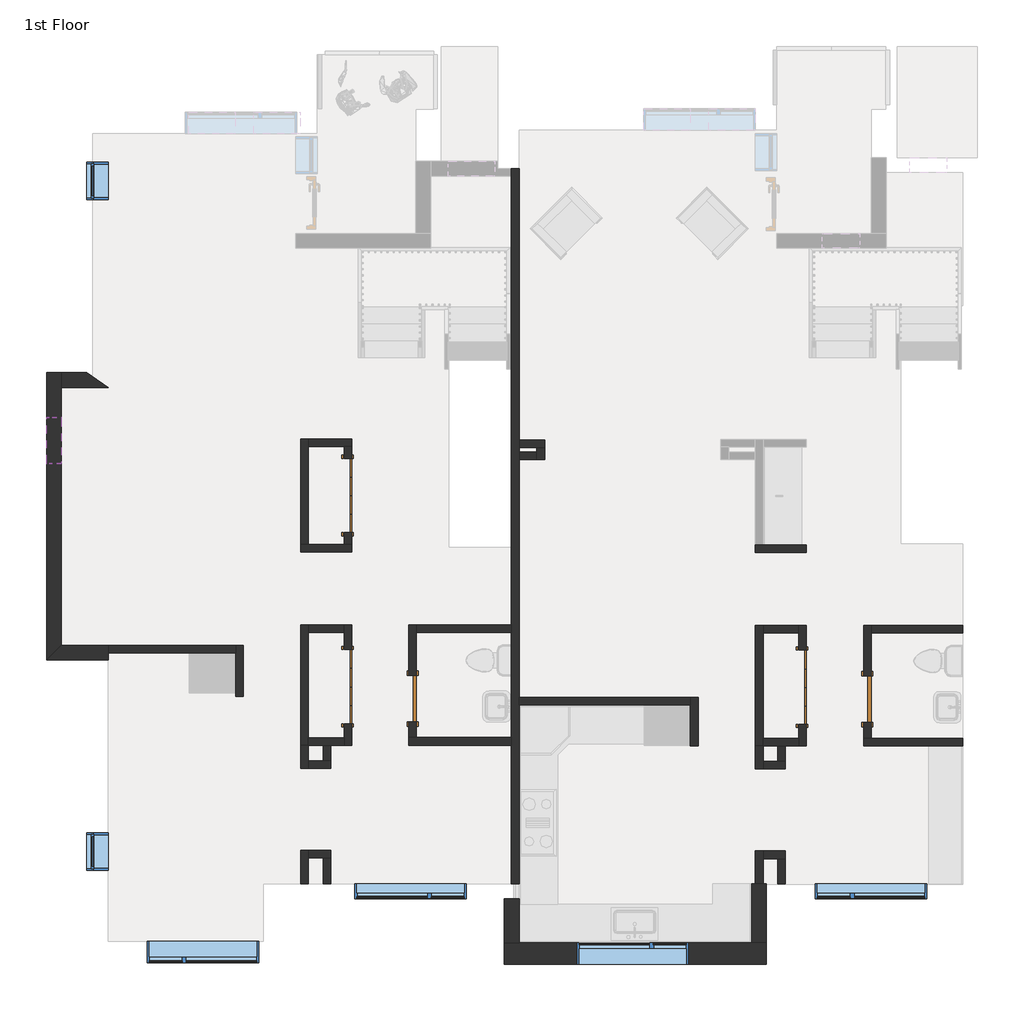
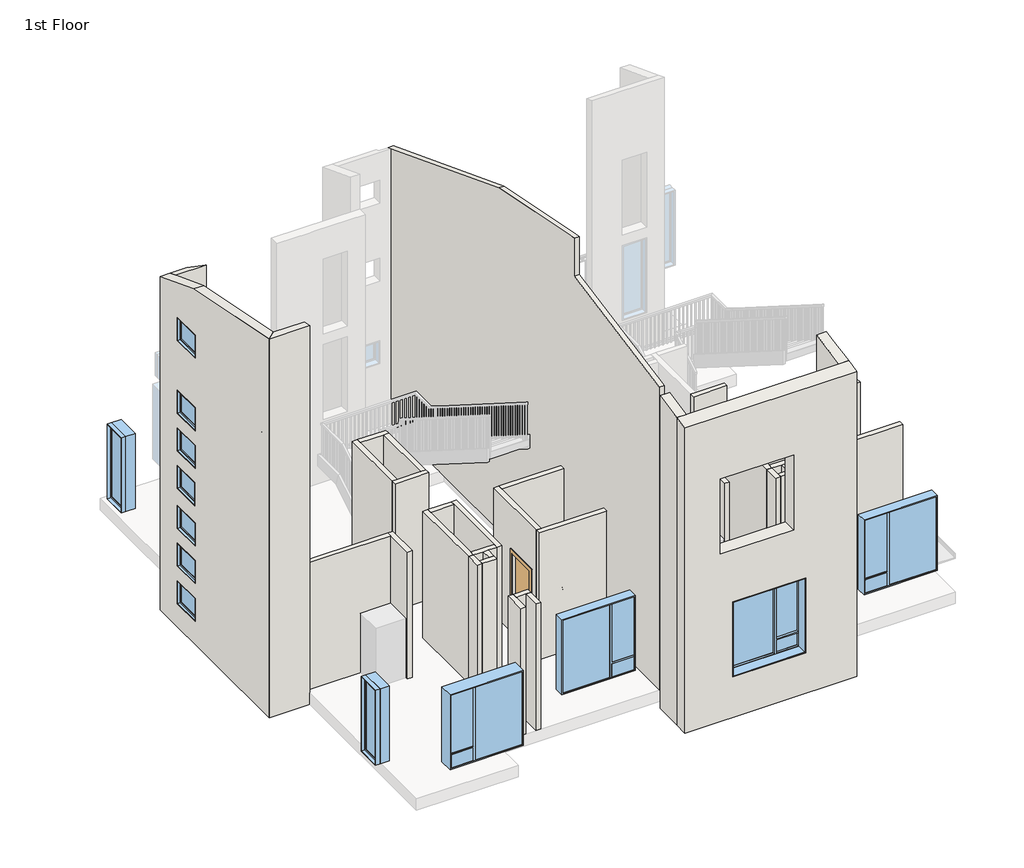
# One storey, part 1 of 6: 45 walls, 13 windows, 5 doors.
"""IFC4 building model written with IfcOpenShell, lengths in millimetres."""

from ifc_helpers import new_model, si_unit, frame, origin, origin_with_axes, place, context, project, spatial, polyline, outline, extrude, faceted_brep, transform, mapped, element, save
from components import bifold_4_panel_87549022, door_f8acb57e, window_8bf192ed, window_b1c1038b, window_8c170f25, window_e558d9e9, window_9a4b9100, window_dcb26459

model = new_model("IFC4")

# Units and contexts
model_context = context("Model", 3, world=origin())
ifc_project = project(units=[si_unit("LENGTHUNIT", "METRE", prefix="MILLI")], contexts=[model_context])

# Site, building, storey
site = spatial("IfcSite", under=ifc_project)
building = spatial("IfcBuilding", under=site)
storey = spatial("IfcBuildingStorey", under=building, Name="1st Floor", Elevation=0.0)

# Doors
placement = place(None, origin())
bifold_4_panel_shape = bifold_4_panel_87549022(model_context)
element("IfcDoor", 1, ObjectType="Bifold - 4 panel : 48\" x  84\"", at=placement, inside=storey, context=model_context, shape_type="MappedRepresentation", body=[
    mapped(bifold_4_panel_shape, transform((3072.3655789, -2688.2311915, 0.0), x_axis=(0.0, -1.0, 0.0), y_axis=(1.0, 0.0, 0.0), z_axis=(0.0, 0.0, 1.0))),
])
element("IfcDoor", 2, ObjectType="Bifold - 4 panel : 48\" x  84\"", at=placement, inside=storey, context=model_context, shape_type="MappedRepresentation", body=[
    mapped(bifold_4_panel_shape, transform((-4380.8788287, -2678.2311915, 0.0), x_axis=(0.0, -1.0, 0.0), y_axis=(1.0, 0.0, 0.0), z_axis=(0.0, 0.0, 1.0))),
])
element("IfcDoor", 3, ObjectType="Bifold - 4 panel : 48\" x  84\"", at=placement, inside=storey, context=model_context, shape_type="MappedRepresentation", body=[
    mapped(bifold_4_panel_shape, transform((-4380.8788287, 458.0881146, 0.0), x_axis=(0.0, -1.0, 0.0), y_axis=(1.0, 0.0, 0.0), z_axis=(0.0, 0.0, 1.0))),
])
door_shape = door_f8acb57e(model_context)
element("IfcDoor", 4, ObjectType="Single-Flush : 30\" x 84\"", at=placement, inside=storey, context=model_context, shape_type="MappedRepresentation", body=[
    mapped(door_shape, transform((4133.8655789, -2883.0811915, 0.0), x_axis=(0.0, -1.0, 0.0), y_axis=(1.0, 0.0, 0.0), z_axis=(0.0, 0.0, 1.0))),
])
element("IfcDoor", 5, ObjectType="Single-Flush : 30\" x 84\"", at=placement, inside=storey, context=model_context, shape_type="MappedRepresentation", body=[
    mapped(door_shape, transform((-3319.3788287, -2873.0811915, 0.0), x_axis=(0.0, -1.0, 0.0), y_axis=(1.0, 0.0, 0.0), z_axis=(0.0, 0.0, 1.0))),
])

# Walls
element("IfcWall", 6, ObjectType="Exterior - Brick", at=placement, inside=storey, context=model_context, shape_type="Brep", body=[
    faceted_brep([(-1817.4196781, -7230.7936915, -304.8), (2477.8178219, -7230.7936915, -304.8), (2477.8178219, -7230.7936915, 7755.5759818), (-1817.4196781, -7230.7936915, 7755.5759818), (898.1938664, -7230.7936915, 6096.0), (898.1938664, -7230.7936915, 4114.8), (-930.6061336, -7230.7936915, 4114.8), (-930.6061336, -7230.7936915, 6096.0), (1202.9938664, -7230.7936915, 2743.2), (1202.9938664, -7230.7936915, 762.0), (-625.8061336, -7230.7936915, 762.0), (-625.8061336, -7230.7936915, 2743.2), (-1817.4196781, -6878.3686915, -304.8), (-1817.4196781, -6878.3686915, 7822.6464081), (-1576.1196781, -6878.3686915, 7822.6464081), (2236.5178219, -6878.3686915, 7822.6464081), (2477.8178219, -6878.3686915, 7822.6464081), (2477.8178219, -6878.3686915, -304.8), (2236.5178219, -6878.3686915, -304.8), (-1576.1196781, -6878.3686915, -304.8), (898.1938664, -6878.3686915, 6096.0), (-930.6061336, -6878.3686915, 6096.0), (-930.6061336, -6878.3686915, 4114.8), (898.1938664, -6878.3686915, 4114.8), (1202.9938664, -6878.3686915, 2743.2), (-625.8061336, -6878.3686915, 2743.2), (-625.8061336, -6878.3686915, 762.0), (1202.9938664, -6878.3686915, 762.0)], [[[0, 1, 2, 3], [4, 5, 6, 7], [8, 9, 10, 11]], [[12, 13, 14, 15, 16, 17, 18, 19], [20, 21, 22, 23], [24, 25, 26, 27]], [[1, 0, 12, 19, 18, 17]], [[0, 3, 13, 12]], [[2, 1, 17, 16]], [[5, 4, 20, 23]], [[6, 5, 23, 22]], [[7, 6, 22, 21]], [[4, 7, 21, 20]], [[3, 2, 16, 15, 14, 13]], [[9, 8, 24, 27]], [[10, 9, 27, 26]], [[11, 10, 26, 25]], [[8, 11, 25, 24]]]),
])
element("IfcWall", 7, ObjectType="Exterior - Stucco", at=placement, inside=storey, context=model_context, shape_type="Brep", body=[
    faceted_brep([(-9080.4946781, 2472.0574206, -304.8), (-9080.4946781, 2472.0574206, 8511.7370135), (-9080.4946781, 2230.7574206, 8604.6307787), (-9080.4946781, 1023.3611207, 9069.4446552), (-9080.4946781, -1997.5436915, 9665.7212145), (-9080.4946781, -1997.5436915, -304.8), (-9080.4946781, 2230.7574206, -304.8), (-9080.4946781, 1734.6688085, 914.4), (-9080.4946781, 1734.6688085, 304.8), (-9080.4946781, 972.6688085, 304.8), (-9080.4946781, 972.6688085, 914.4), (-9080.4946781, 1734.6688085, 1908.175), (-9080.4946781, 1734.6688085, 1298.575), (-9080.4946781, 972.6688085, 1298.575), (-9080.4946781, 972.6688085, 1908.175), (-9080.4946781, 1734.6688085, 2901.95), (-9080.4946781, 1734.6688085, 2292.35), (-9080.4946781, 972.6688085, 2292.35), (-9080.4946781, 972.6688085, 2901.95), (-9080.4946781, 1741.8074206, 3962.4), (-9080.4946781, 1741.8074206, 3352.8), (-9080.4946781, 979.8074206, 3352.8), (-9080.4946781, 979.8074206, 3962.4), (-9080.4946781, 1734.6688085, 4956.175), (-9080.4946781, 1734.6688085, 4346.575), (-9080.4946781, 972.6688085, 4346.575), (-9080.4946781, 972.6688085, 4956.175), (-9080.4946781, 1734.6688085, 5949.95), (-9080.4946781, 1734.6688085, 5340.35), (-9080.4946781, 972.6688085, 5340.35), (-9080.4946781, 972.6688085, 5949.95), (-9080.4946781, 1734.6688085, 7870.825), (-9080.4946781, 1734.6688085, 7261.225), (-9080.4946781, 972.6688085, 7261.225), (-9080.4946781, 972.6688085, 7870.825), (-9321.7946781, 2472.0574206, -304.8), (-9321.7946781, -2238.8436915, -304.8), (-9321.7946781, -2238.8436915, 9713.3498366), (-9321.7946781, 1023.3611207, 9069.4446552), (-9321.7946781, 2472.0574206, 8511.7370135), (-9321.7946781, 1734.6688085, 914.4), (-9321.7946781, 972.6688085, 914.4), (-9321.7946781, 972.6688085, 304.8), (-9321.7946781, 1734.6688085, 304.8), (-9321.7946781, 1734.6688085, 1908.175), (-9321.7946781, 972.6688085, 1908.175), (-9321.7946781, 972.6688085, 1298.575), (-9321.7946781, 1734.6688085, 1298.575), (-9321.7946781, 1734.6688085, 2901.95), (-9321.7946781, 972.6688085, 2901.95), (-9321.7946781, 972.6688085, 2292.35), (-9321.7946781, 1734.6688085, 2292.35), (-9321.7946781, 1741.8074206, 3962.4), (-9321.7946781, 979.8074206, 3962.4), (-9321.7946781, 979.8074206, 3352.8), (-9321.7946781, 1741.8074206, 3352.8), (-9321.7946781, 1734.6688085, 4956.175), (-9321.7946781, 972.6688085, 4956.175), (-9321.7946781, 972.6688085, 4346.575), (-9321.7946781, 1734.6688085, 4346.575), (-9321.7946781, 1734.6688085, 5949.95), (-9321.7946781, 972.6688085, 5949.95), (-9321.7946781, 972.6688085, 5340.35), (-9321.7946781, 1734.6688085, 5340.35), (-9321.7946781, 1734.6688085, 7870.825), (-9321.7946781, 972.6688085, 7870.825), (-9321.7946781, 972.6688085, 7261.225), (-9321.7946781, 1734.6688085, 7261.225)], [[[0, 1, 2, 3, 4, 5, 6], [7, 8, 9, 10], [11, 12, 13, 14], [15, 16, 17, 18], [19, 20, 21, 22], [23, 24, 25, 26], [27, 28, 29, 30], [31, 32, 33, 34]], [[35, 36, 37, 38, 39], [40, 41, 42, 43], [44, 45, 46, 47], [48, 49, 50, 51], [52, 53, 54, 55], [56, 57, 58, 59], [60, 61, 62, 63], [64, 65, 66, 67]], [[36, 35, 0, 6, 5]], [[35, 39, 1, 0]], [[37, 36, 5, 4]], [[8, 7, 40, 43]], [[9, 8, 43, 42]], [[10, 9, 42, 41]], [[7, 10, 41, 40]], [[12, 11, 44, 47]], [[13, 12, 47, 46]], [[14, 13, 46, 45]], [[11, 14, 45, 44]], [[16, 15, 48, 51]], [[17, 16, 51, 50]], [[18, 17, 50, 49]], [[15, 18, 49, 48]], [[20, 19, 52, 55]], [[21, 20, 55, 54]], [[22, 21, 54, 53]], [[19, 22, 53, 52]], [[24, 23, 56, 59]], [[25, 24, 59, 58]], [[26, 25, 58, 57]], [[23, 26, 57, 56]], [[28, 27, 60, 63]], [[29, 28, 63, 62]], [[30, 29, 62, 61]], [[27, 30, 61, 60]], [[32, 31, 64, 67]], [[33, 32, 67, 66]], [[34, 33, 66, 65]], [[31, 34, 65, 64]], [[39, 38, 3, 2, 1]], [[38, 37, 4, 3]]]),
])
element("IfcWall", 8, ObjectType="Exterior - Stucco", at=placement, inside=storey, context=model_context, shape_type="Brep", body=[
    faceted_brep([(-9080.4946781, 2230.7574206, -304.8), (-8312.2446781, 2230.7574206, -304.8), (-8312.2446781, 2230.7574206, 8604.6307787), (-9080.4946781, 2230.7574206, 8604.6307787), (-9080.4946781, 2472.0574206, -304.8), (-9080.4946781, 2472.0574206, 8511.7370135), (-8664.6696781, 2472.0574206, 8511.7370135), (-8664.6696781, 2472.0574206, -304.8)], [[[0, 1, 2, 3]], [[4, 5, 6, 7]], [[1, 0, 4, 7]], [[2, 1, 7, 6]], [[0, 3, 5, 4]], [[3, 2, 6, 5]]]),
])
element("IfcWall", 9, ObjectType="Exterior - Stucco", at=placement, inside=storey, context=model_context, shape_type="Brep", body=[
    faceted_brep([(-9321.7946781, -2238.8436915, -304.8), (-8312.2446781, -2238.8436915, -304.8), (-8312.2446781, -2238.8436915, -28.575), (-8312.2446781, -2238.8436915, 6705.6), (-8312.2446781, -2238.8436915, 8711.0519224), (-8312.2446781, -2238.8436915, 9713.3498366), (-9321.7946781, -2238.8436915, 9713.3498366), (-9080.4946781, -1997.5436915, -304.8), (-9080.4946781, -1997.5436915, 9665.7212145), (-8312.2446781, -1997.5436915, 9665.7212145), (-8312.2446781, -1997.5436915, 6705.6), (-8312.2446781, -1997.5436915, -304.8)], [[[0, 1, 2, 3, 4, 5, 6]], [[7, 8, 9, 10, 11]], [[1, 0, 7, 11]], [[5, 4, 3, 2, 1, 11, 10, 9]], [[0, 6, 8, 7]], [[6, 5, 9, 8]]]),
])
element("IfcWall", 10, ObjectType="Exterior - Stucco", at=placement, inside=storey, context=model_context, shape_type="SweptSolid", body=[
    extrude(outline(polyline([(-6155.1546456, 7960.2821444), (-6155.1546456, -304.8), (-6878.3686915, -304.8), (-6878.3686915, 7822.6464081), (-6155.1546456, 7960.2821444)])), frame((-1817.4196781, 0.0, 0.0), z_axis=(1.0, 0.0, 0.0), x_axis=(0.0, 1.0, 0.0)), (0.0, 0.0, 1.0), 241.3),
])
element("IfcWall", 11, ObjectType="Exterior - Stucco", at=placement, inside=storey, context=model_context, shape_type="Brep", body=[
    faceted_brep([(2477.8178219, -6878.3686915, -304.8), (2477.8178219, -6155.1546456, -304.8), (2477.8178219, -5913.8546456, -304.8), (2477.8178219, -5913.8546456, 8006.2042381), (2477.8178219, -6155.1546456, 7960.2821444), (2477.8178219, -6878.3686915, 7822.6464081), (2236.5178219, -6878.3686915, -304.8), (2236.5178219, -6878.3686915, 7822.6464081), (2236.5178219, -5913.8546456, 8006.2042381), (2236.5178219, -5913.8546456, -304.8)], [[[0, 1, 2, 3, 4, 5]], [[6, 7, 8, 9]], [[2, 1, 0, 6, 9]], [[2, 9, 8, 3]], [[0, 5, 7, 6]], [[5, 4, 3, 8, 7]]]),
])
element("IfcWall", 12, ObjectType="Interior - 4 7/8\" Partition (1-hr)", at=placement, inside=storey, context=model_context, shape_type="Brep", body=[
    faceted_brep([(5698.2155789, -3522.8436915, 0.0), (4195.7780789, -3522.8436915, 0.0), (4071.9530789, -3522.8436915, 0.0), (4071.9530789, -3522.8436915, 3048.0), (4195.7780789, -3522.8436915, 3048.0), (5698.2155789, -3522.8436915, 3048.0), (5698.2155789, -3646.6686915, 0.0), (5698.2155789, -3646.6686915, 3048.0), (4071.9530789, -3646.6686915, 3048.0), (4071.9530789, -3646.6686915, 0.0)], [[[0, 1, 2, 3, 4, 5]], [[6, 7, 8, 9]], [[2, 1, 0, 6, 9]], [[3, 2, 9, 8]], [[0, 5, 7, 6]], [[5, 4, 3, 8, 7]]]),
])
element("IfcWall", 13, ObjectType="Interior - 4 7/8\" Partition (1-hr)", at=placement, inside=storey, context=model_context, shape_type="Brep", body=[
    faceted_brep([(4071.9530789, -3264.0811915, 2133.6), (4071.9530789, -3264.0811915, 0.0), (4071.9530789, -3522.8436915, 0.0), (4071.9530789, -3522.8436915, 3048.0), (4071.9530789, -1675.8186915, 3048.0), (4071.9530789, -1675.8186915, 0.0), (4071.9530789, -2502.0811915, 0.0), (4071.9530789, -2502.0811915, 2133.6), (4195.7780789, -3522.8436915, 0.0), (4195.7780789, -3264.0811915, 0.0), (4195.7780789, -3264.0811915, 2133.6), (4195.7780789, -2502.0811915, 2133.6), (4195.7780789, -2502.0811915, 0.0), (4195.7780789, -1799.6436915, 0.0), (4195.7780789, -1675.8186915, 0.0), (4195.7780789, -1675.8186915, 3048.0), (4195.7780789, -1799.6436915, 3048.0), (4195.7780789, -3522.8436915, 3048.0)], [[[0, 1, 2, 3, 4, 5, 6, 7]], [[8, 9, 10, 11, 12, 13, 14, 15, 16, 17]], [[2, 1, 9, 8]], [[6, 5, 14, 13, 12]], [[15, 14, 5, 4]], [[8, 17, 3, 2]], [[17, 16, 15, 4, 3]], [[10, 9, 1, 0]], [[11, 10, 0, 7]], [[12, 11, 7, 6]]]),
])
element("IfcWall", 14, ObjectType="Interior - 4 7/8\" Partition (1-hr)", at=placement, inside=storey, context=model_context, shape_type="SweptSolid", body=[
    extrude(outline(polyline([(5698.2155789, -1799.6436915), (4195.7780789, -1799.6436915), (4195.7780789, -1675.8186915), (5698.2155789, -1675.8186915), (5698.2155789, -1799.6436915)])), origin_with_axes(), (0.0, 0.0, 1.0), 3048.0),
])
element("IfcWall", 15, ObjectType="Interior - 4 7/8\" Partition (1-hr)", at=placement, inside=storey, context=model_context, shape_type="Brep", body=[
    faceted_brep([(3133.8655789, -352.8186915, 0.0), (2424.6053219, -352.8186915, 0.0), (2300.7803219, -352.8186915, 0.0), (2300.7803219, -352.8186915, 3048.0), (2424.6053219, -352.8186915, 3048.0), (3133.8655789, -352.8186915, 3048.0), (3133.8655789, -476.6436915, 0.0), (3133.8655789, -476.6436915, 3048.0), (2300.7803219, -476.6436915, 3048.0), (2300.7803219, -476.6436915, 0.0)], [[[0, 1, 2, 3, 4, 5]], [[6, 7, 8, 9]], [[2, 1, 0, 6, 9]], [[0, 5, 7, 6]], [[3, 2, 9, 8]], [[5, 4, 3, 8, 7]]]),
])
element("IfcWall", 16, ObjectType="Interior - 4 7/8\" Partition (1-hr)", at=placement, inside=storey, context=model_context, shape_type="SweptSolid", body=[
    extrude(outline(polyline([(1235.1530789, -2980.3686915), (-1576.1196781, -2980.3686915), (-1576.1196781, -2856.5436915), (1235.1530789, -2856.5436915), (1235.1530789, -2980.3686915)])), origin_with_axes(), (0.0, 0.0, 1.0), 3048.0),
])
element("IfcWall", 17, ObjectType="Interior - 4 7/8\" Partition (1-hr)", at=placement, inside=storey, context=model_context, shape_type="Brep", body=[
    faceted_brep([(3010.4530789, -3297.8311915, 2133.6), (3010.4530789, -3297.8311915, 0.0), (3010.4530789, -3529.0811915, 0.0), (3010.4530789, -3652.9061915, 0.0), (3010.4530789, -3652.9061915, 3048.0), (3010.4530789, -3529.0811915, 3048.0), (3010.4530789, -1799.6436915, 3048.0), (3010.4530789, -1675.8186915, 3048.0), (3010.4530789, -1675.8186915, 0.0), (3010.4530789, -1799.6436915, 0.0), (3010.4530789, -2078.6311915, 0.0), (3010.4530789, -2078.6311915, 2133.6), (3134.2780789, -3652.9061915, 0.0), (3134.2780789, -3297.8311915, 0.0), (3134.2780789, -3297.8311915, 2133.6), (3134.2780789, -2078.6311915, 2133.6), (3134.2780789, -2078.6311915, 0.0), (3134.2780789, -1675.8186915, 0.0), (3134.2780789, -1675.8186915, 3048.0), (3134.2780789, -3652.9061915, 3048.0)], [[[0, 1, 2, 3, 4, 5, 6, 7, 8, 9, 10, 11]], [[12, 13, 14, 15, 16, 17, 18, 19]], [[3, 2, 1, 13, 12]], [[10, 9, 8, 17, 16]], [[8, 7, 18, 17]], [[4, 3, 12, 19]], [[7, 6, 5, 4, 19, 18]], [[14, 13, 1, 0]], [[15, 14, 0, 11]], [[16, 15, 11, 10]]]),
])
element("IfcWall", 18, ObjectType="Interior - 4 7/8\" Partition (1-hr)", at=placement, inside=storey, context=model_context, shape_type="Brep", body=[
    faceted_brep([(2300.7803219, -1675.8186915, 0.0), (2300.7803219, -3652.9061915, 0.0), (2300.7803219, -3652.9061915, 3048.0), (2300.7803219, -1675.8186915, 3048.0), (2424.6053219, -1675.8186915, 0.0), (2424.6053219, -1675.8186915, 3048.0), (2424.6053219, -1799.6436915, 3048.0), (2424.6053219, -3529.0811915, 3048.0), (2424.6053219, -3652.9061915, 3048.0), (2424.6053219, -3652.9061915, 0.0), (2424.6053219, -3529.0811915, 0.0), (2424.6053219, -1799.6436915, 0.0)], [[[0, 1, 2, 3]], [[4, 5, 6, 7, 8, 9, 10, 11]], [[1, 0, 4, 11, 10, 9]], [[0, 3, 5, 4]], [[2, 1, 9, 8]], [[3, 2, 8, 7, 6, 5]]]),
])
element("IfcWall", 19, ObjectType="Interior - 4 7/8\" Partition (1-hr)", at=placement, inside=storey, context=model_context, shape_type="Brep", body=[
    faceted_brep([(1235.1530789, -2856.5436915, 0.0), (1235.1530789, -2980.3686915, 0.0), (1235.1530789, -3646.2561915, 0.0), (1235.1530789, -3646.2561915, 3048.0), (1235.1530789, -2980.3686915, 3048.0), (1235.1530789, -2856.5436915, 3048.0), (1358.9780789, -2856.5436915, 0.0), (1358.9780789, -2856.5436915, 3048.0), (1358.9780789, -3646.2561915, 3048.0), (1358.9780789, -3646.2561915, 0.0)], [[[0, 1, 2, 3, 4, 5]], [[6, 7, 8, 9]], [[2, 1, 0, 6, 9]], [[3, 2, 9, 8]], [[0, 5, 7, 6]], [[5, 4, 3, 8, 7]]]),
])
element("IfcWall", 20, ObjectType="Interior - 4 7/8\" Partition (1-hr)", at=placement, inside=storey, context=model_context, shape_type="SweptSolid", body=[
    extrude(outline(polyline([(3010.4530789, -1799.6436915), (2424.6053219, -1799.6436915), (2424.6053219, -1675.8186915), (3010.4530789, -1675.8186915), (3010.4530789, -1799.6436915)])), origin_with_axes(), (0.0, 0.0, 1.0), 3048.0),
])
element("IfcWall", 21, ObjectType="Interior - 4 7/8\" Partition (1-hr)", at=placement, inside=storey, context=model_context, shape_type="Brep", body=[
    faceted_brep([(2424.6053219, -3652.9061915, 0.0), (2667.0803219, -3652.9061915, 0.0), (2790.9053219, -3652.9061915, 0.0), (3010.4530789, -3652.9061915, 0.0), (3010.4530789, -3652.9061915, 3048.0), (2790.9053219, -3652.9061915, 3048.0), (2667.0803219, -3652.9061915, 3048.0), (2424.6053219, -3652.9061915, 3048.0), (2424.6053219, -3529.0811915, 0.0), (2424.6053219, -3529.0811915, 3048.0), (3010.4530789, -3529.0811915, 3048.0), (3010.4530789, -3529.0811915, 0.0)], [[[0, 1, 2, 3, 4, 5, 6, 7]], [[8, 9, 10, 11]], [[3, 2, 1, 0, 8, 11]], [[4, 3, 11, 10]], [[0, 7, 9, 8]], [[7, 6, 5, 4, 10, 9]]]),
])
element("IfcWall", 22, ObjectType="Interior - 4 7/8\" Partition (1-hr)", at=placement, inside=storey, context=model_context, shape_type="Brep", body=[
    faceted_brep([(-1576.1196781, 1245.7895201, 0.0), (-1282.0184081, 1245.7925466, 0.0), (-1158.1934081, 1245.7938208, 0.0), (-1158.1934081, 1245.7938208, 3048.0), (-1282.0184081, 1245.7925466, 3048.0), (-1576.1196781, 1245.7895201, 3048.0), (-1576.1196781, 1369.6145201, 0.0), (-1576.1196781, 1369.6145201, 3048.0), (-1158.1946824, 1369.6188208, 3048.0), (-1158.1946824, 1369.6188208, 0.0)], [[[0, 1, 2, 3, 4, 5]], [[6, 7, 8, 9]], [[2, 1, 0, 6, 9]], [[3, 2, 9, 8]], [[0, 5, 7, 6]], [[5, 4, 3, 8, 7]]]),
])
element("IfcWall", 23, ObjectType="Interior - 4 7/8\" Partition (1-hr)", at=placement, inside=storey, context=model_context, shape_type="Brep", body=[
    faceted_brep([(-1282.0184081, 1245.7925466, 0.0), (-1282.0176572, 1172.8199206, 0.0), (-1282.016383, 1048.9949206, 0.0), (-1282.016383, 1048.9949206, 3048.0), (-1282.0176572, 1172.8199206, 3048.0), (-1282.0184081, 1245.7925466, 3048.0), (-1158.1934081, 1245.7938208, 0.0), (-1158.1934081, 1245.7938208, 3048.0), (-1158.1913829, 1048.9949206, 3048.0), (-1158.1913829, 1048.9949206, 0.0)], [[[0, 1, 2, 3, 4, 5]], [[6, 7, 8, 9]], [[2, 1, 0, 6, 9]], [[3, 2, 9, 8]], [[0, 5, 7, 6]], [[5, 4, 3, 8, 7]]]),
])
element("IfcWall", 24, ObjectType="Interior - 4 7/8\" Partition (1-hr)", at=placement, inside=storey, context=model_context, shape_type="SweptSolid", body=[
    extrude(outline(polyline([(-1576.1196781, 1172.8199206), (-1282.0176572, 1172.8199206), (-1282.016383, 1048.9949206), (-1576.1196781, 1048.9949206), (-1576.1196781, 1172.8199206)])), origin_with_axes(), (0.0, 0.0, 1.0), 3048.0),
])
element("IfcWall", 25, ObjectType="Interior - 4 7/8\" Partition (1-hr)", at=placement, inside=storey, context=model_context, shape_type="Brep", body=[
    faceted_brep([(2300.7803219, -3652.9061915, 0.0), (2300.7803219, -4028.7311915, 0.0), (2300.7803219, -4028.7311915, 3048.0), (2300.7803219, -3652.9061915, 3048.0), (2424.6053219, -3652.9061915, 0.0), (2424.6053219, -3652.9061915, 3048.0), (2424.6053219, -3904.9061915, 3048.0), (2424.6053219, -4028.7311915, 3048.0), (2424.6053219, -4028.7311915, 0.0), (2424.6053219, -3904.9061915, 0.0)], [[[0, 1, 2, 3]], [[4, 5, 6, 7, 8, 9]], [[1, 0, 4, 9, 8]], [[2, 1, 8, 7]], [[0, 3, 5, 4]], [[3, 2, 7, 6, 5]]]),
])
element("IfcWall", 26, ObjectType="Interior - 4 7/8\" Partition (1-hr)", at=placement, inside=storey, context=model_context, shape_type="Brep", body=[
    faceted_brep([(2424.6053219, -4028.7311915, 0.0), (2790.9053219, -4028.7311915, 0.0), (2790.9053219, -4028.7311915, 3048.0), (2424.6053219, -4028.7311915, 3048.0), (2424.6053219, -3904.9061915, 0.0), (2424.6053219, -3904.9061915, 3048.0), (2667.0803219, -3904.9061915, 3048.0), (2790.9053219, -3904.9061915, 3048.0), (2790.9053219, -3904.9061915, 0.0), (2667.0803219, -3904.9061915, 0.0)], [[[0, 1, 2, 3]], [[4, 5, 6, 7, 8, 9]], [[1, 0, 4, 9, 8]], [[2, 1, 8, 7]], [[0, 3, 5, 4]], [[3, 2, 7, 6, 5]]]),
])
element("IfcWall", 27, ObjectType="Interior - 4 7/8\" Partition (1-hr)", at=placement, inside=storey, context=model_context, shape_type="SweptSolid", body=[
    extrude(outline(polyline([(2790.9053219, -3652.9061915), (2790.9053219, -3904.9061915), (2667.0803219, -3904.9061915), (2667.0803219, -3652.9061915), (2790.9053219, -3652.9061915)])), origin_with_axes(), (0.0, 0.0, 1.0), 3048.0),
])
element("IfcWall", 28, ObjectType="Interior - 4 7/8\" Partition (1-hr)", at=placement, inside=storey, context=model_context, shape_type="Brep", body=[
    faceted_brep([(2424.4786115, -5913.8546456, 0.0), (2424.4786115, -5497.9561915, 0.0), (2424.4786115, -5374.1311915, 0.0), (2424.4786115, -5374.1311915, 3048.0), (2424.4786115, -5497.9561915, 3048.0), (2424.4786115, -5913.8546456, 3048.0), (2300.6536115, -5913.8546456, 0.0), (2300.6536115, -5913.8546456, 3048.0), (2300.6536115, -5374.1311915, 3048.0), (2300.6536115, -5374.1311915, 0.0)], [[[0, 1, 2, 3, 4, 5]], [[6, 7, 8, 9]], [[2, 1, 0, 6, 9]], [[3, 2, 9, 8]], [[0, 5, 7, 6]], [[5, 4, 3, 8, 7]]]),
])
element("IfcWall", 29, ObjectType="Interior - 4 7/8\" Partition (1-hr)", at=placement, inside=storey, context=model_context, shape_type="Brep", body=[
    faceted_brep([(2424.4786115, -5497.9561915, 0.0), (2667.0803219, -5497.9561915, 0.0), (2790.9053219, -5497.9561915, 0.0), (2790.9053219, -5497.9561915, 3048.0), (2667.0803219, -5497.9561915, 3048.0), (2424.4786115, -5497.9561915, 3048.0), (2424.4786115, -5374.1311915, 0.0), (2424.4786115, -5374.1311915, 3048.0), (2790.9053219, -5374.1311915, 3048.0), (2790.9053219, -5374.1311915, 0.0)], [[[0, 1, 2, 3, 4, 5]], [[6, 7, 8, 9]], [[2, 1, 0, 6, 9]], [[3, 2, 9, 8]], [[0, 5, 7, 6]], [[5, 4, 3, 8, 7]]]),
])
element("IfcWall", 30, ObjectType="Interior - 4 7/8\" Partition (1-hr)", at=placement, inside=storey, context=model_context, shape_type="SweptSolid", body=[
    extrude(outline(polyline([(2667.0803219, -5913.8546456), (2667.0803219, -5497.9561915), (2790.9053219, -5497.9561915), (2790.9053219, -5913.8546456), (2667.0803219, -5913.8546456)])), origin_with_axes(), (0.0, 0.0, 1.0), 3048.0),
])
element("IfcWall", 31, ObjectType="Interior - 4 7/8\" Partition (1-hr)", at=placement, inside=storey, context=model_context, shape_type="Brep", body=[
    faceted_brep([(-1699.9446781, -3512.8436915, 0.0), (-3257.4663287, -3512.8436915, 0.0), (-3381.2913287, -3512.8436915, 0.0), (-3381.2913287, -3512.8436915, 3352.8), (-3257.4663287, -3512.8436915, 3352.8), (-1699.9446781, -3512.8436915, 3352.8), (-1699.9446781, -3636.6686915, 0.0), (-1699.9446781, -3636.6686915, 3352.8), (-3381.2913287, -3636.6686915, 3352.8), (-3381.2913287, -3636.6686915, 0.0)], [[[0, 1, 2, 3, 4, 5]], [[6, 7, 8, 9]], [[2, 1, 0, 6, 9]], [[5, 4, 3, 8, 7]], [[3, 2, 9, 8]], [[0, 5, 7, 6]]]),
])
element("IfcWall", 32, ObjectType="Interior - 4 7/8\" Partition (1-hr)", at=placement, inside=storey, context=model_context, shape_type="Brep", body=[
    faceted_brep([(-3257.4663287, -3512.8436915, 3352.8), (-3257.4663287, -1789.6436915, 3352.8), (-3257.4663287, -1665.8186915, 3352.8), (-3381.2913287, -1665.8186915, 3352.8), (-3381.2913287, -3512.8436915, 3352.8), (-3381.2913287, -3254.0811915, 2133.6), (-3381.2913287, -3254.0811915, 0.0), (-3381.2913287, -3512.8436915, 0.0), (-3381.2913287, -1665.8186915, 0.0), (-3381.2913287, -2492.0811915, 0.0), (-3381.2913287, -2492.0811915, 2133.6), (-3257.4663287, -3512.8436915, 0.0), (-3257.4663287, -3254.0811915, 0.0), (-3257.4663287, -3254.0811915, 2133.6), (-3257.4663287, -2492.0811915, 2133.6), (-3257.4663287, -2492.0811915, 0.0), (-3257.4663287, -1789.6436915, 0.0), (-3257.4663287, -1665.8186915, 0.0)], [[[0, 1, 2, 3, 4]], [[5, 6, 7, 4, 3, 8, 9, 10]], [[11, 12, 13, 14, 15, 16, 17, 2, 1, 0]], [[7, 6, 12, 11]], [[9, 8, 17, 16, 15]], [[2, 17, 8, 3]], [[11, 0, 4, 7]], [[13, 12, 6, 5]], [[14, 13, 5, 10]], [[15, 14, 10, 9]]]),
])
element("IfcWall", 33, ObjectType="Interior - 4 7/8\" Partition (1-hr)", at=placement, inside=storey, context=model_context, shape_type="SweptSolid", body=[
    extrude(outline(polyline([(-1699.9446781, -1789.6436915), (-3257.4663287, -1789.6436915), (-3257.4663287, -1665.8186915), (-1699.9446781, -1665.8186915), (-1699.9446781, -1789.6436915)])), origin_with_axes(), (0.0, 0.0, 1.0), 3352.8),
])
element("IfcWall", 34, ObjectType="Interior - 4 7/8\" Partition (1-hr)", at=placement, inside=storey, context=model_context, shape_type="Brep", body=[
    faceted_brep([(-4318.9663287, -342.8186915, 0.0), (-4442.7913287, -342.8186915, 0.0), (-5028.6390857, -342.8186915, 0.0), (-5152.4640857, -342.8186915, 0.0), (-5152.4640857, -342.8186915, 3352.8), (-5028.6390857, -342.8186915, 3352.8), (-4442.7913287, -342.8186915, 3352.8), (-4318.9663287, -342.8186915, 3352.8), (-4318.9663287, -466.6436915, 0.0), (-4318.9663287, -466.6436915, 3352.8), (-5152.4640857, -466.6436915, 3352.8), (-5152.4640857, -466.6436915, 0.0)], [[[0, 1, 2, 3, 4, 5, 6, 7]], [[8, 9, 10, 11]], [[3, 2, 1, 0, 8, 11]], [[7, 6, 5, 4, 10, 9]], [[4, 3, 11, 10]], [[0, 7, 9, 8]]]),
])
element("IfcWall", 35, ObjectType="Interior - 4 7/8\" Partition (1-hr)", at=placement, inside=storey, context=model_context, shape_type="Brep", body=[
    faceted_brep([(-5028.6390857, -342.8186915, 0.0), (-5028.6390857, 1258.9949206, 0.0), (-5028.6390857, 1382.8199206, 0.0), (-5028.6390857, 1382.8199206, 3352.8), (-5028.6390857, 1258.9949206, 3352.8), (-5028.6390857, -342.8186915, 3352.8), (-5152.4640857, -342.8186915, 0.0), (-5152.4640857, -342.8186915, 3352.8), (-5152.4640857, 1382.8199206, 3352.8), (-5152.4640857, 1382.8199206, 0.0)], [[[0, 1, 2, 3, 4, 5]], [[6, 7, 8, 9]], [[2, 1, 0, 6, 9]], [[5, 4, 3, 8, 7]], [[3, 2, 9, 8]], [[0, 5, 7, 6]]]),
])
element("IfcWall", 36, ObjectType="Interior - 4 7/8\" Partition (1-hr)", at=placement, inside=storey, context=model_context, shape_type="Brep", body=[
    faceted_brep([(-5028.6390857, 1258.9949206, 0.0), (-4442.7913287, 1258.9949206, 0.0), (-4318.9663287, 1258.9949206, 0.0), (-4318.9663287, 1258.9949206, 3352.8), (-4442.7913287, 1258.9949206, 3352.8), (-5028.6390857, 1258.9949206, 3352.8), (-5028.6390857, 1382.8199206, 0.0), (-5028.6390857, 1382.8199206, 3352.8), (-4318.9663287, 1382.8199206, 3352.8), (-4318.9663287, 1382.8199206, 0.0)], [[[0, 1, 2, 3, 4, 5]], [[6, 7, 8, 9]], [[2, 1, 0, 6, 9]], [[5, 4, 3, 8, 7]], [[3, 2, 9, 8]], [[0, 5, 7, 6]]]),
])
element("IfcWall", 37, ObjectType="Interior - 4 7/8\" Partition (1-hr)", at=placement, inside=storey, context=model_context, shape_type="Brep", body=[
    faceted_brep([(-8312.2446781, -2121.3686915, 3352.8), (-7905.7446781, -2121.3686915, 3352.8), (-7143.7446781, -2121.3686915, 3352.8), (-6218.0913287, -2121.3686915, 3352.8), (-6218.0913287, -1997.5436915, 3352.8), (-7143.7446781, -1997.5436915, 3352.8), (-7905.7446781, -1997.5436915, 3352.8), (-8312.2446781, -1997.5436915, 3352.8), (-8312.2446781, -1997.5436915, 0.0), (-6218.0913287, -1997.5436915, 0.0), (-8312.2446781, -2121.3686915, 0.0), (-6218.0913287, -2121.3686915, 0.0)], [[[0, 1, 2, 3, 4, 5, 6, 7]], [[8, 7, 6, 5, 4, 9]], [[10, 11, 3, 2, 1, 0]], [[11, 10, 8, 9]], [[3, 11, 9, 4]], [[10, 0, 7, 8]]]),
])
element("IfcWall", 38, ObjectType="Interior - 4 7/8\" Partition (1-hr)", at=placement, inside=storey, context=model_context, shape_type="Brep", body=[
    faceted_brep([(-4442.7913287, -3287.8311915, 2133.6), (-4442.7913287, -3287.8311915, 0.0), (-4442.7913287, -3519.0811915, 0.0), (-4442.7913287, -3642.9061915, 0.0), (-4442.7913287, -3642.9061915, 3352.8), (-4442.7913287, -3519.0811915, 3352.8), (-4442.7913287, -1789.6436915, 3352.8), (-4442.7913287, -1665.8186915, 3352.8), (-4442.7913287, -1665.8186915, 0.0), (-4442.7913287, -1789.6436915, 0.0), (-4442.7913287, -2068.6311915, 0.0), (-4442.7913287, -2068.6311915, 2133.6), (-4318.9663287, -3642.9061915, 0.0), (-4318.9663287, -3287.8311915, 0.0), (-4318.9663287, -3287.8311915, 2133.6), (-4318.9663287, -2068.6311915, 2133.6), (-4318.9663287, -2068.6311915, 0.0), (-4318.9663287, -1665.8186915, 0.0), (-4318.9663287, -1665.8186915, 3352.8), (-4318.9663287, -3642.9061915, 3352.8)], [[[0, 1, 2, 3, 4, 5, 6, 7, 8, 9, 10, 11]], [[12, 13, 14, 15, 16, 17, 18, 19]], [[3, 2, 1, 13, 12]], [[10, 9, 8, 17, 16]], [[7, 6, 5, 4, 19, 18]], [[8, 7, 18, 17]], [[4, 3, 12, 19]], [[14, 13, 1, 0]], [[15, 14, 0, 11]], [[16, 15, 11, 10]]]),
])
element("IfcWall", 39, ObjectType="Interior - 4 7/8\" Partition (1-hr)", at=placement, inside=storey, context=model_context, shape_type="Brep", body=[
    faceted_brep([(-5152.4640857, -1665.8186915, 0.0), (-5152.4640857, -3642.9061915, 0.0), (-5152.4640857, -3642.9061915, 3352.8), (-5152.4640857, -1665.8186915, 3352.8), (-5028.6390857, -1665.8186915, 0.0), (-5028.6390857, -1665.8186915, 3352.8), (-5028.6390857, -1789.6436915, 3352.8), (-5028.6390857, -3519.0811915, 3352.8), (-5028.6390857, -3642.9061915, 3352.8), (-5028.6390857, -3642.9061915, 0.0), (-5028.6390857, -3519.0811915, 0.0), (-5028.6390857, -1789.6436915, 0.0)], [[[0, 1, 2, 3]], [[4, 5, 6, 7, 8, 9, 10, 11]], [[1, 0, 4, 11, 10, 9]], [[3, 2, 8, 7, 6, 5]], [[0, 3, 5, 4]], [[2, 1, 9, 8]]]),
])
element("IfcWall", 40, ObjectType="Interior - 4 7/8\" Partition (1-hr)", at=placement, inside=storey, context=model_context, shape_type="Brep", body=[
    faceted_brep([(-6218.0913287, -1997.5436915, 0.0), (-6218.0913287, -2121.3686915, 0.0), (-6218.0913287, -2836.9186915, 0.0), (-6218.0913287, -2836.9186915, 3352.8), (-6218.0913287, -2121.3686915, 3352.8), (-6218.0913287, -1997.5436915, 3352.8), (-6094.2663287, -1997.5436915, 0.0), (-6094.2663287, -1997.5436915, 3352.8), (-6094.2663287, -2836.9186915, 3352.8), (-6094.2663287, -2836.9186915, 0.0)], [[[0, 1, 2, 3, 4, 5]], [[6, 7, 8, 9]], [[2, 1, 0, 6, 9]], [[3, 2, 9, 8]], [[5, 4, 3, 8, 7]], [[0, 5, 7, 6]]]),
])
element("IfcWall", 41, ObjectType="Interior - 4 7/8\" Partition (1-hr)", at=placement, inside=storey, context=model_context, shape_type="SweptSolid", body=[
    extrude(outline(polyline([(-4442.7913287, -1789.6436915), (-5028.6390857, -1789.6436915), (-5028.6390857, -1665.8186915), (-4442.7913287, -1665.8186915), (-4442.7913287, -1789.6436915)])), origin_with_axes(), (0.0, 0.0, 1.0), 3352.8),
])
element("IfcWall", 42, ObjectType="Interior - 4 7/8\" Partition (1-hr)", at=placement, inside=storey, context=model_context, shape_type="Brep", body=[
    faceted_brep([(-5028.6390857, -3642.9061915, 0.0), (-4786.1640857, -3642.9061915, 0.0), (-4662.3390857, -3642.9061915, 0.0), (-4442.7913287, -3642.9061915, 0.0), (-4442.7913287, -3642.9061915, 3352.8), (-4662.3390857, -3642.9061915, 3352.8), (-4786.1640857, -3642.9061915, 3352.8), (-5028.6390857, -3642.9061915, 3352.8), (-5028.6390857, -3519.0811915, 0.0), (-5028.6390857, -3519.0811915, 3352.8), (-4442.7913287, -3519.0811915, 3352.8), (-4442.7913287, -3519.0811915, 0.0)], [[[0, 1, 2, 3, 4, 5, 6, 7]], [[8, 9, 10, 11]], [[3, 2, 1, 0, 8, 11]], [[7, 6, 5, 4, 10, 9]], [[4, 3, 11, 10]], [[0, 7, 9, 8]]]),
])
element("IfcWall", 43, ObjectType="Interior - 4 7/8\" Partition (1-hr)", at=placement, inside=storey, context=model_context, shape_type="Brep", body=[
    faceted_brep([(-5152.4640857, -3642.9061915, 0.0), (-5152.4640857, -4018.7311915, 0.0), (-5152.4640857, -4018.7311915, 3352.8), (-5152.4640857, -3642.9061915, 3352.8), (-5028.6390857, -3642.9061915, 0.0), (-5028.6390857, -3642.9061915, 3352.8), (-5028.6390857, -3894.9061915, 3352.8), (-5028.6390857, -4018.7311915, 3352.8), (-5028.6390857, -4018.7311915, 0.0), (-5028.6390857, -3894.9061915, 0.0)], [[[0, 1, 2, 3]], [[4, 5, 6, 7, 8, 9]], [[1, 0, 4, 9, 8]], [[3, 2, 7, 6, 5]], [[2, 1, 8, 7]], [[0, 3, 5, 4]]]),
])
element("IfcWall", 44, ObjectType="Interior - 4 7/8\" Partition (1-hr)", at=placement, inside=storey, context=model_context, shape_type="Brep", body=[
    faceted_brep([(-5028.6390857, -4018.7311915, 0.0), (-4662.3390857, -4018.7311915, 0.0), (-4662.3390857, -4018.7311915, 3352.8), (-5028.6390857, -4018.7311915, 3352.8), (-5028.6390857, -3894.9061915, 0.0), (-5028.6390857, -3894.9061915, 3352.8), (-4786.1640857, -3894.9061915, 3352.8), (-4662.3390857, -3894.9061915, 3352.8), (-4662.3390857, -3894.9061915, 0.0), (-4786.1640857, -3894.9061915, 0.0)], [[[0, 1, 2, 3]], [[4, 5, 6, 7, 8, 9]], [[1, 0, 4, 9, 8]], [[3, 2, 7, 6, 5]], [[2, 1, 8, 7]], [[0, 3, 5, 4]]]),
])
element("IfcWall", 45, ObjectType="Interior - 4 7/8\" Partition (1-hr)", at=placement, inside=storey, context=model_context, shape_type="SweptSolid", body=[
    extrude(outline(polyline([(-4662.3390857, -3642.9061915), (-4662.3390857, -3894.9061915), (-4786.1640857, -3894.9061915), (-4786.1640857, -3642.9061915), (-4662.3390857, -3642.9061915)])), origin_with_axes(), (0.0, 0.0, 1.0), 3352.8),
])
element("IfcWall", 46, ObjectType="Interior - 4 7/8\" Partition (1-hr)", at=placement, inside=storey, context=model_context, shape_type="Brep", body=[
    faceted_brep([(-5028.7657961, -5913.8546456, 0.0), (-5028.7657961, -5487.9561915, 0.0), (-5028.7657961, -5364.1311915, 0.0), (-5028.7657961, -5364.1311915, 3352.8), (-5028.7657961, -5487.9561915, 3352.8), (-5028.7657961, -5913.8546456, 3352.8), (-5152.5907961, -5913.8546456, 0.0), (-5152.5907961, -5913.8546456, 3352.8), (-5152.5907961, -5364.1311915, 3352.8), (-5152.5907961, -5364.1311915, 0.0)], [[[0, 1, 2, 3, 4, 5]], [[6, 7, 8, 9]], [[2, 1, 0, 6, 9]], [[5, 4, 3, 8, 7]], [[3, 2, 9, 8]], [[0, 5, 7, 6]]]),
])
element("IfcWall", 47, ObjectType="Interior - 4 7/8\" Partition (1-hr)", at=placement, inside=storey, context=model_context, shape_type="Brep", body=[
    faceted_brep([(-5028.7657961, -5487.9561915, 0.0), (-4786.1640857, -5487.9561915, 0.0), (-4662.3390857, -5487.9561915, 0.0), (-4662.3390857, -5487.9561915, 3352.8), (-4786.1640857, -5487.9561915, 3352.8), (-5028.7657961, -5487.9561915, 3352.8), (-5028.7657961, -5364.1311915, 0.0), (-5028.7657961, -5364.1311915, 3352.8), (-4662.3390857, -5364.1311915, 3352.8), (-4662.3390857, -5364.1311915, 0.0)], [[[0, 1, 2, 3, 4, 5]], [[6, 7, 8, 9]], [[2, 1, 0, 6, 9]], [[5, 4, 3, 8, 7]], [[3, 2, 9, 8]], [[0, 5, 7, 6]]]),
])
element("IfcWall", 48, ObjectType="Interior - 4 7/8\" Partition (1-hr)", at=placement, inside=storey, context=model_context, shape_type="SweptSolid", body=[
    extrude(outline(polyline([(-4786.1640857, -5913.8546456), (-4786.1640857, -5487.9561915), (-4662.3390857, -5487.9561915), (-4662.3390857, -5913.8546456), (-4786.1640857, -5913.8546456)])), origin_with_axes(), (0.0, 0.0, 1.0), 3352.8),
])
element("IfcWall", 49, ObjectType="Interior - 4 7/8\" Partition (1-hr)", at=placement, inside=storey, context=model_context, shape_type="SweptSolid", body=[
    extrude(outline(polyline([(-151.5118854, 2133.6), (-151.5118854, 0.0), (-342.8186915, 0.0), (-342.8186915, 3352.8), (1258.9949206, 3352.8), (1258.9949206, 0.0), (1067.6881146, 0.0), (1067.6881146, 2133.6), (-151.5118854, 2133.6)])), frame((-4442.7913287, 0.0, 0.0), z_axis=(1.0, 0.0, 0.0), x_axis=(0.0, 1.0, 0.0)), (0.0, 0.0, 1.0), 123.825),
])
element("IfcWall", 50, ObjectType="Interior - 4 7/8\" Partition (1-hr)", at=placement, inside=storey, context=model_context, shape_type="Brep", body=[
    faceted_brep([(-1699.9446781, 5817.7187973, 0.0), (-1699.9446781, 5697.0687973, 0.0), (-1699.9446781, -1665.8186915, 0.0), (-1699.9446781, -1789.6436915, 0.0), (-1699.9446781, -3512.8436915, 0.0), (-1699.9446781, -3636.6686915, 0.0), (-1699.9446781, -5913.8546456, 0.0), (-1699.9446781, -5913.8546456, 8006.2042381), (-1699.9446781, -2238.8436915, 8705.6), (-1699.9446781, -2238.8436915, 9713.3498366), (-1699.9446781, -1997.5436915, 9665.7212145), (-1699.9446781, 1023.3611207, 9069.4446552), (-1699.9446781, 5697.0687973, 7270.1976451), (-1699.9446781, 5817.7187973, 7223.7507625), (-1576.1196781, 5817.7187973, 0.0), (-1576.1196781, 5817.7187973, 7223.7507625), (-1576.1196781, 1023.3611207, 9069.4446552), (-1576.1196781, -1997.5436915, 9665.7212145), (-1576.1196781, -2238.8436915, 9713.3498366), (-1576.1196781, -2238.8436915, 8705.6), (-1576.1196781, -5913.8546456, 8006.2042381), (-1576.1196781, -5913.8546456, 0.0), (-1576.1196781, -2980.3686915, 0.0), (-1576.1196781, -2856.5436915, 0.0), (-1576.1196781, 1048.9949206, 0.0), (-1576.1196781, 1172.8199206, 0.0), (-1576.1196781, 1245.7895201, 0.0), (-1576.1196781, 1369.6145201, 0.0), (-1576.1196781, 5697.0687973, 0.0)], [[[0, 1, 2, 3, 4, 5, 6, 7, 8, 9, 10, 11, 12, 13]], [[14, 15, 16, 17, 18, 19, 20, 21, 22, 23, 24, 25, 26, 27, 28]], [[6, 5, 4, 3, 2, 1, 0, 14, 28, 27, 26, 25, 24, 23, 22, 21]], [[0, 13, 15, 14]], [[7, 6, 21, 20]], [[18, 9, 8, 19]], [[8, 7, 20, 19]], [[13, 12, 11, 16, 15]], [[11, 10, 9, 18, 17, 16]]]),
])

# Windows
window_shape = window_8bf192ed(model_context)
element("IfcWindow", 51, ObjectType="Fixed : 24\" x 30\"", at=placement, inside=storey, context=model_context, shape_type="MappedRepresentation", body=[
    mapped(window_shape, transform((-9201.1446781, 1391.7688085, -609.6), x_axis=(0.0, 1.0, 0.0), y_axis=(-1.0, 0.0, 0.0), z_axis=(0.0, 0.0, 1.0))),
])
element("IfcWindow", 52, ObjectType="Fixed : 24\" x 30\"", at=placement, inside=storey, context=model_context, shape_type="MappedRepresentation", body=[
    mapped(window_shape, transform((-9201.1446781, 1391.7688085, 384.175), x_axis=(0.0, 1.0, 0.0), y_axis=(-1.0, 0.0, 0.0), z_axis=(0.0, 0.0, 1.0))),
])
element("IfcWindow", 53, ObjectType="Fixed : 24\" x 30\"", at=placement, inside=storey, context=model_context, shape_type="MappedRepresentation", body=[
    mapped(window_shape, transform((-9201.1446781, 1391.7688085, 1377.95), x_axis=(0.0, 1.0, 0.0), y_axis=(-1.0, 0.0, 0.0), z_axis=(0.0, 0.0, 1.0))),
])
element("IfcWindow", 54, ObjectType="Fixed : 24\" x 30\"", at=placement, inside=storey, context=model_context, shape_type="MappedRepresentation", body=[
    mapped(window_shape, transform((-9201.1446781, 1398.9074206, 2438.4), x_axis=(0.0, 1.0, 0.0), y_axis=(-1.0, 0.0, 0.0), z_axis=(0.0, 0.0, 1.0))),
])
element("IfcWindow", 55, ObjectType="Fixed : 24\" x 30\"", at=placement, inside=storey, context=model_context, shape_type="MappedRepresentation", body=[
    mapped(window_shape, transform((-9201.1446781, 1391.7688085, 3432.175), x_axis=(0.0, 1.0, 0.0), y_axis=(-1.0, 0.0, 0.0), z_axis=(0.0, 0.0, 1.0))),
])
element("IfcWindow", 56, ObjectType="Fixed : 24\" x 30\"", at=placement, inside=storey, context=model_context, shape_type="MappedRepresentation", body=[
    mapped(window_shape, transform((-9201.1446781, 1391.7688085, 4425.95), x_axis=(0.0, 1.0, 0.0), y_axis=(-1.0, 0.0, 0.0), z_axis=(0.0, 0.0, 1.0))),
])
element("IfcWindow", 57, ObjectType="Fixed : 24\" x 30\"", at=placement, inside=storey, context=model_context, shape_type="MappedRepresentation", body=[
    mapped(window_shape, transform((-9201.1446781, 1391.7688085, 6346.825), x_axis=(0.0, 1.0, 0.0), y_axis=(-1.0, 0.0, 0.0), z_axis=(0.0, 0.0, 1.0))),
])
window_2_shape = window_b1c1038b(model_context)
element("IfcWindow", 58, ObjectType="Fixed : 24\" x 78\"", at=placement, inside=storey, context=model_context, shape_type="MappedRepresentation", body=[
    mapped(window_2_shape, transform((-8488.4571781, 5654.8563085, 0.0), x_axis=(0.0, 1.0, 0.0), y_axis=(-1.0, 0.0, 0.0), z_axis=(0.0, 0.0, 1.0))),
])
window_3_shape = window_8c170f25(model_context)
element("IfcWindow", 59, ObjectType="Fixed : 24\" x 78\"", at=placement, inside=storey, context=model_context, shape_type="MappedRepresentation", body=[
    mapped(window_3_shape, transform((-8488.4571781, -5421.6425794, 0.0), x_axis=(0.0, -1.0, 0.0), y_axis=(1.0, 0.0, 0.0), z_axis=(0.0, 0.0, 1.0))),
])
window_4_shape = window_e558d9e9(model_context)
element("IfcWindow", 60, ObjectType="Window-Casement-Double-Sidelight : 72\" x 78\"", at=placement, inside=storey, context=model_context, shape_type="MappedRepresentation", body=[
    mapped(window_4_shape, transform((4195.3655789, -6034.5046456, 0.0), x_axis=(-1.0, 0.0, 0.0), y_axis=(0.0, -1.0, 0.0), z_axis=(0.0, 0.0, 1.0))),
])
window_5_shape = window_9a4b9100(model_context)
element("IfcWindow", 61, ObjectType="Window-Casement-Double-Sidelight : 72\" x 78\"", at=placement, inside=storey, context=model_context, shape_type="MappedRepresentation", body=[
    mapped(window_5_shape, transform((-3352.6515857, -6034.5046456, 0.0), x_axis=(1.0, 0.0, 0.0), y_axis=(0.0, 1.0, 0.0), z_axis=(0.0, 0.0, 1.0))),
])
window_6_shape = window_dcb26459(model_context)
element("IfcWindow", 62, ObjectType="Window-Casement-Double-Sidelight : 72\" x 78\"", at=placement, inside=storey, context=model_context, shape_type="MappedRepresentation", body=[
    mapped(window_6_shape, transform((-6756.9168819, -7030.3311915, -152.4), x_axis=(-1.0, 0.0, 0.0), y_axis=(0.0, -1.0, 0.0), z_axis=(0.0, 0.0, 1.0))),
])
element("IfcWindow", 63, ObjectType="Window-Casement-Double-Sidelight : 72\" x 78\"", at=placement, inside=storey, context=model_context, shape_type="MappedRepresentation", body=[
    mapped(window_6_shape, transform((288.5938664, -7054.5811915, -152.4), x_axis=(1.0, 0.0, 0.0), y_axis=(0.0, 1.0, 0.0), z_axis=(0.0, 0.0, 1.0))),
])

save(model, "model.ifc")
